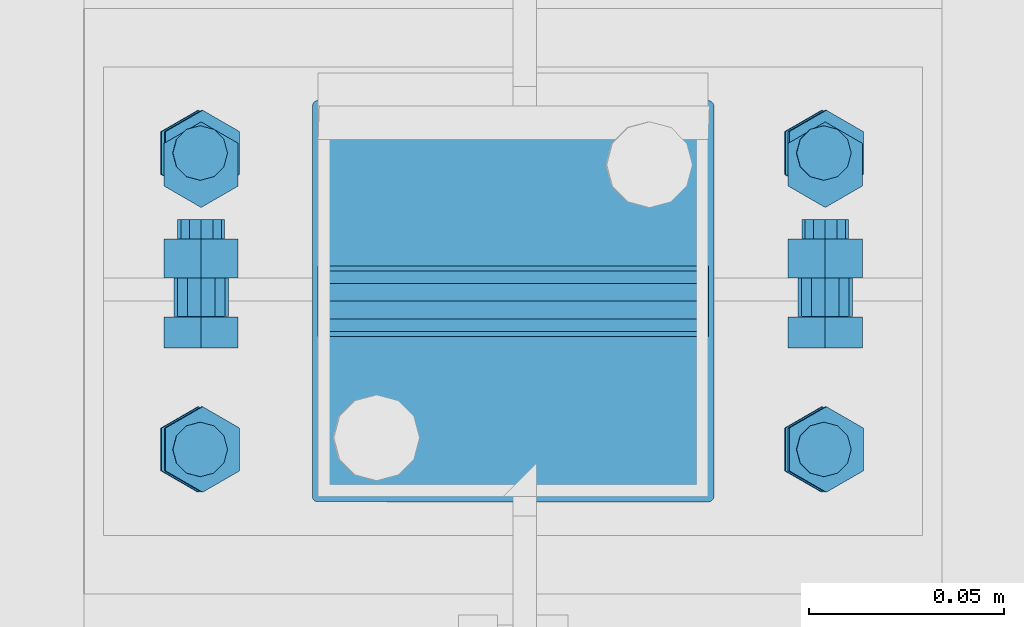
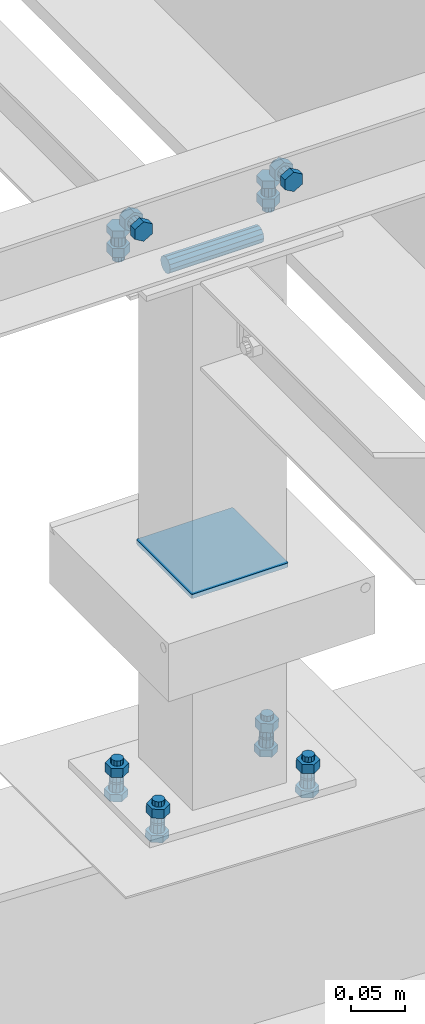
# One storey, part 80 of 3134: 6 mechanical fasteners, 3 elements without a shape of their own.
"""IFC2X3 building model written with IfcOpenShell, lengths in millimetres."""

from ifc_helpers import new_model, si_unit, frame, origin_with_axes, place, context, subcontext, project, spatial, faceted_brep, source, transform, mapped, material, type_object, element, aggregate, save


model = new_model("IFC2X3")

# Units and contexts
model_context = context("Model", 3, precision=1e-05, world=origin_with_axes())
body_context = subcontext(model_context, "Body", "Model", "MODEL_VIEW")
ifc_project = project(units=[si_unit("LENGTHUNIT", "METRE", prefix="MILLI"), si_unit("AREAUNIT", "SQUARE_METRE"), si_unit("VOLUMEUNIT", "CUBIC_METRE"), si_unit("MASSUNIT", "GRAM", prefix="KILO"), si_unit("TIMEUNIT", "SECOND"), si_unit("PLANEANGLEUNIT", "RADIAN"), si_unit("SOLIDANGLEUNIT", "STERADIAN"), si_unit("THERMODYNAMICTEMPERATUREUNIT", "DEGREE_CELSIUS"), si_unit("LUMINOUSINTENSITYUNIT", "LUMEN")], contexts=[model_context])

# Site, building, storey
site_placement = place(None, origin_with_axes())
site = spatial("IfcSite", under=ifc_project, at=site_placement, CompositionType="ELEMENT")
building_placement = place(site_placement, origin_with_axes())
building = spatial("IfcBuilding", under=site, at=building_placement, Name="Undefined", CompositionType="ELEMENT")
storey_placement = place(building_placement, origin_with_axes())
storey = spatial("IfcBuildingStorey", under=building, at=storey_placement, Name="Undefined", CompositionType="ELEMENT", Elevation=0.0)

# Assembly, mechanical fastener
assembly_1_placement = place(storey_placement, origin_with_axes())
assembly_1 = element("IfcElementAssembly", 1, at=assembly_1_placement, inside=storey, AssemblyPlace="NOTDEFINED", PredefinedType="RIGID_FRAME")
ifc_material_1 = material(Name="8.8")
mechanical_fastener_type = type_object("IfcMechanicalFastenerType", Name="Bolt assembly")
shared_shape_1 = source(origin_with_axes(), body_context, "Body", "Brep", [
    faceted_brep([(10.9696551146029, -14.0, 0.0), (5.48482755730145, -14.0, 9.5), (-5.48482755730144, -14.0, 9.5), (-10.9696551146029, -14.0, 1.34339530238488e-15), (-5.48482755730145, -14.0, -9.5), (5.48482755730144, -14.0, -9.50000000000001), (5.48482755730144, -6.0, -9.50000000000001), (-5.48482755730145, -6.0, -9.5), (-10.9696551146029, -6.0, 1.34339530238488e-15), (-5.48482755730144, -6.0, 9.5), (5.48482755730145, -6.0, 9.5), (10.9696551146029, -6.0, 0.0), (6.0, -6.0, 0.0), (5.19615242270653, -6.0, 3.00000000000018), (2.99999999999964, -6.0, 5.19615242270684), (-6.21801588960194e-13, -6.0, 6.0), (-3.00000000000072, -6.0, 5.19615242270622), (-5.19615242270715, -6.0, 2.9999999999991), (-6.0, -6.0, -1.24360317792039e-12), (-5.19615242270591, -6.0, -3.00000000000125), (-2.99999999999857, -6.0, -5.19615242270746), (1.85874342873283e-12, -6.0, -6.0), (3.00000000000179, -6.0, -5.1961524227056), (5.19615242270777, -6.0, -2.99999999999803), (5.19615242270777, 24.0, -2.99999999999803), (3.00000000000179, 24.0, -5.1961524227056), (1.85874342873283e-12, 24.0, -6.0), (-2.99999999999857, 24.0, -5.19615242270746), (-5.19615242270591, 24.0, -3.00000000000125), (-6.0, 24.0, -1.24360317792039e-12), (-5.19615242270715, 24.0, 2.9999999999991), (-3.00000000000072, 24.0, 5.19615242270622), (-6.21801588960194e-13, 24.0, 6.0), (2.99999999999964, 24.0, 5.19615242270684), (5.19615242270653, 24.0, 3.00000000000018), (6.0, 24.0, 0.0), (10.9696551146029, 6.00000000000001, 0.0), (5.48482755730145, 6.00000000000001, 9.5), (-5.48482755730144, 6.00000000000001, 9.5), (-10.9696551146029, 6.00000000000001, 1.34339530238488e-15), (-5.48482755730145, 6.00000000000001, -9.5), (5.48482755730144, 6.00000000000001, -9.50000000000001), (5.48482755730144, 16.0, -9.50000000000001), (-5.48482755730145, 16.0, -9.5), (-10.9696551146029, 16.0, 1.34339530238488e-15), (-5.48482755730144, 16.0, 9.5), (5.48482755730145, 16.0, 9.5), (10.9696551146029, 16.0, 0.0)], [[[0, 1, 2, 3, 4, 5]], [[6, 7, 8, 9, 10, 11]], [[0, 11, 10, 1]], [[1, 10, 9, 2]], [[2, 9, 8, 3]], [[3, 8, 7, 4]], [[4, 7, 6, 5]], [[5, 6, 11, 0]], [[12, 13, 14, 15, 16, 17, 18, 19, 20, 21, 22, 23]], [[24, 25, 26, 27, 28, 29, 30, 31, 32, 33, 34, 35]], [[12, 35, 34, 13]], [[13, 34, 33, 14]], [[14, 33, 32, 15]], [[15, 32, 31, 16]], [[16, 31, 30, 17]], [[17, 30, 29, 18]], [[18, 29, 28, 19]], [[19, 28, 27, 20]], [[20, 27, 26, 21]], [[21, 26, 25, 22]], [[22, 25, 24, 23]], [[23, 24, 35, 12]], [[36, 37, 38, 39, 40, 41]], [[42, 43, 44, 45, 46, 47]], [[36, 47, 46, 37]], [[37, 46, 45, 38]], [[38, 45, 44, 39]], [[39, 44, 43, 40]], [[40, 43, 42, 41]], [[41, 42, 47, 36]]]),
    faceted_brep([(7.0, -0.1, 0.0), (6.06217782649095, -0.1, 3.50000000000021), (3.49999999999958, -0.1, 6.06217782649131), (-7.25435187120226e-13, -0.1, 7.0), (-3.50000000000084, -0.1, 6.06217782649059), (-6.06217782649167, -0.1, 3.49999999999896), (-7.0, -0.1, -1.45087037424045e-12), (-6.06217782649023, -0.1, -3.50000000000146), (-3.49999999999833, -0.1, -6.06217782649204), (2.1685340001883e-12, -0.1, -7.0), (3.50000000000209, -0.1, -6.06217782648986), (6.0621778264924, -0.1, -3.4999999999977), (6.0621778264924, 6.00000000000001, -3.4999999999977), (3.50000000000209, 6.00000000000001, -6.06217782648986), (2.1685340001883e-12, 6.00000000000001, -7.0), (-3.49999999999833, 6.00000000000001, -6.06217782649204), (-6.06217782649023, 6.00000000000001, -3.50000000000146), (-7.0, 6.00000000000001, -1.45087037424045e-12), (-6.06217782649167, 6.00000000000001, 3.49999999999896), (-3.50000000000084, 6.00000000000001, 6.06217782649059), (-7.25435187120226e-13, 6.00000000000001, 7.0), (3.49999999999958, 6.00000000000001, 6.06217782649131), (6.06217782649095, 6.00000000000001, 3.50000000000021), (7.0, 6.00000000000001, 0.0), (7.0, -5.9, 0.0), (6.06217782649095, -5.9, 3.50000000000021), (3.49999999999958, -5.9, 6.06217782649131), (-7.25435187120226e-13, -5.9, 7.0), (-3.50000000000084, -5.9, 6.06217782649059), (-6.06217782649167, -5.9, 3.49999999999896), (-7.0, -5.9, -1.45087037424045e-12), (-6.06217782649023, -5.9, -3.50000000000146), (-3.49999999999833, -5.9, -6.06217782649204), (2.1685340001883e-12, -5.9, -7.0), (3.50000000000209, -5.9, -6.06217782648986), (6.0621778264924, -5.9, -3.4999999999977), (6.0621778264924, 0.0999999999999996, -3.4999999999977), (3.50000000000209, 0.0999999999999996, -6.06217782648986), (2.1685340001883e-12, 0.0999999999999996, -7.0), (-3.49999999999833, 0.0999999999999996, -6.06217782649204), (-6.06217782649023, 0.0999999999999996, -3.50000000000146), (-7.0, 0.0999999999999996, -1.45087037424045e-12), (-6.06217782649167, 0.0999999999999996, 3.49999999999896), (-3.50000000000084, 0.0999999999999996, 6.06217782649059), (-7.25435187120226e-13, 0.0999999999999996, 7.0), (3.49999999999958, 0.0999999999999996, 6.06217782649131), (6.06217782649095, 0.0999999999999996, 3.50000000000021), (7.0, 0.0999999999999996, 0.0)], [[[0, 1, 2, 3, 4, 5, 6, 7, 8, 9, 10, 11]], [[12, 13, 14, 15, 16, 17, 18, 19, 20, 21, 22, 23]], [[0, 23, 22, 1]], [[1, 22, 21, 2]], [[2, 21, 20, 3]], [[3, 20, 19, 4]], [[4, 19, 18, 5]], [[5, 18, 17, 6]], [[6, 17, 16, 7]], [[7, 16, 15, 8]], [[8, 15, 14, 9]], [[9, 14, 13, 10]], [[10, 13, 12, 11]], [[11, 12, 23, 0]], [[24, 25, 26, 27, 28, 29, 30, 31, 32, 33, 34, 35]], [[36, 37, 38, 39, 40, 41, 42, 43, 44, 45, 46, 47]], [[24, 47, 46, 25]], [[25, 46, 45, 26]], [[26, 45, 44, 27]], [[27, 44, 43, 28]], [[28, 43, 42, 29]], [[29, 42, 41, 30]], [[30, 41, 40, 31]], [[31, 40, 39, 32]], [[32, 39, 38, 33]], [[33, 38, 37, 34]], [[34, 37, 36, 35]], [[35, 36, 47, 24]]]),
])
mechanical_fastener_1_placement = place(assembly_1_placement, frame((8340.0, 24547.5, 4365.0), z_axis=(1.0, 0.0, 0.0), x_axis=(0.0, -1.0, 0.0)))
mechanical_fastener_1 = element("IfcMechanicalFastener", 2, at=mechanical_fastener_1_placement, type_object=mechanical_fastener_type, material=ifc_material_1, Name="Bolt assembly", NominalDiameter=12.0, NominalLength=30.0, context=body_context, shape_type="MappedRepresentation", body=[
    mapped(shared_shape_1, transform((0.0, -5.32963895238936e-10, -79.9999999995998))),
    mapped(shared_shape_1, transform((0.0, 5.3114490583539e-10, 79.9999999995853))),
])

assembly_2_placement = place(storey_placement, origin_with_axes())
assembly_2 = element("IfcElementAssembly", 3, at=assembly_2_placement, inside=storey, AssemblyPlace="NOTDEFINED", PredefinedType="RIGID_FRAME")
shared_shape_2 = source(origin_with_axes(), body_context, "Body", "Brep", [
    faceted_brep([(10.9696551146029, -4.18346828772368, 0.0), (5.48482755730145, -4.18346828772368, 9.5), (-5.48482755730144, -4.18346828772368, 9.5), (-10.9696551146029, -4.18346828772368, 1.34339530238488e-15), (-5.48482755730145, -4.18346828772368, -9.5), (5.48482755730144, -4.18346828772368, -9.50000000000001), (5.48482755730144, 3.81653171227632, -9.50000000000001), (-5.48482755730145, 3.81653171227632, -9.5), (-10.9696551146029, 3.81653171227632, 1.34339530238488e-15), (-5.48482755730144, 3.81653171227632, 9.5), (5.48482755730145, 3.81653171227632, 9.5), (10.9696551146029, 3.81653171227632, 0.0), (6.0, 3.81653171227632, 0.0), (5.19615242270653, 3.81653171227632, 3.00000000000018), (2.99999999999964, 3.81653171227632, 5.19615242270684), (-6.21801588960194e-13, 3.81653171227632, 6.0), (-3.00000000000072, 3.81653171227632, 5.19615242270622), (-5.19615242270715, 3.81653171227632, 2.9999999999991), (-6.0, 3.81653171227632, -1.24360317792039e-12), (-5.19615242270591, 3.81653171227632, -3.00000000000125), (-2.99999999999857, 3.81653171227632, -5.19615242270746), (1.85874342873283e-12, 3.81653171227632, -6.0), (3.00000000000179, 3.81653171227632, -5.1961524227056), (5.19615242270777, 3.81653171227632, -2.99999999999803), (5.19615242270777, 38.8165317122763, -2.99999999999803), (3.00000000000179, 38.8165317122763, -5.1961524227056), (1.85874342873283e-12, 38.8165317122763, -6.0), (-2.99999999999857, 38.8165317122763, -5.19615242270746), (-5.19615242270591, 38.8165317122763, -3.00000000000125), (-6.0, 38.8165317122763, -1.24360317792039e-12), (-5.19615242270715, 38.8165317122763, 2.9999999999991), (-3.00000000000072, 38.8165317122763, 5.19615242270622), (-6.21801588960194e-13, 38.8165317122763, 6.0), (2.99999999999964, 38.8165317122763, 5.19615242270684), (5.19615242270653, 38.8165317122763, 3.00000000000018), (6.0, 38.8165317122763, 0.0), (10.9696551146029, 23.0139082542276, 0.0), (5.48482755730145, 23.0139082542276, 9.5), (-5.48482755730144, 23.0139082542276, 9.5), (-10.9696551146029, 23.0139082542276, 1.34339530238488e-15), (-5.48482755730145, 23.0139082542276, -9.5), (5.48482755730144, 23.0139082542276, -9.50000000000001), (5.48482755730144, 33.0139082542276, -9.50000000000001), (-5.48482755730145, 33.0139082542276, -9.5), (-10.9696551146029, 33.0139082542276, 1.34339530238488e-15), (-5.48482755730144, 33.0139082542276, 9.5), (5.48482755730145, 33.0139082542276, 9.5), (10.9696551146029, 33.0139082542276, 0.0)], [[[0, 1, 2, 3, 4, 5]], [[6, 7, 8, 9, 10, 11]], [[0, 11, 10, 1]], [[1, 10, 9, 2]], [[2, 9, 8, 3]], [[3, 8, 7, 4]], [[4, 7, 6, 5]], [[5, 6, 11, 0]], [[12, 13, 14, 15, 16, 17, 18, 19, 20, 21, 22, 23]], [[24, 25, 26, 27, 28, 29, 30, 31, 32, 33, 34, 35]], [[12, 35, 34, 13]], [[13, 34, 33, 14]], [[14, 33, 32, 15]], [[15, 32, 31, 16]], [[16, 31, 30, 17]], [[17, 30, 29, 18]], [[18, 29, 28, 19]], [[19, 28, 27, 20]], [[20, 27, 26, 21]], [[21, 26, 25, 22]], [[22, 25, 24, 23]], [[23, 24, 35, 12]], [[36, 37, 38, 39, 40, 41]], [[42, 43, 44, 45, 46, 47]], [[36, 47, 46, 37]], [[37, 46, 45, 38]], [[38, 45, 44, 39]], [[39, 44, 43, 40]], [[40, 43, 42, 41]], [[41, 42, 47, 36]]]),
    faceted_brep([(7.0, 3.91653171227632, 0.0), (6.06217782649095, 3.91653171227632, 3.50000000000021), (3.49999999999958, 3.91653171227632, 6.06217782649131), (-7.25435187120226e-13, 3.91653171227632, 7.0), (-3.50000000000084, 3.91653171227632, 6.06217782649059), (-6.06217782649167, 3.91653171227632, 3.49999999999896), (-7.0, 3.91653171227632, -1.45087037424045e-12), (-6.06217782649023, 3.91653171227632, -3.50000000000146), (-3.49999999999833, 3.91653171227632, -6.06217782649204), (2.1685340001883e-12, 3.91653171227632, -7.0), (3.50000000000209, 3.91653171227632, -6.06217782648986), (6.0621778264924, 3.91653171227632, -3.4999999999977), (6.0621778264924, 13.1165315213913, -3.4999999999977), (3.50000000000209, 13.1165315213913, -6.06217782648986), (2.1685340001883e-12, 13.1165315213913, -7.0), (-3.49999999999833, 13.1165315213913, -6.06217782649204), (-6.06217782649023, 13.1165315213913, -3.50000000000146), (-7.0, 13.1165315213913, -1.45087037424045e-12), (-6.06217782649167, 13.1165315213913, 3.49999999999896), (-3.50000000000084, 13.1165315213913, 6.06217782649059), (-7.25435187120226e-13, 13.1165315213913, 7.0), (3.49999999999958, 13.1165315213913, 6.06217782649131), (6.06217782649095, 13.1165315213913, 3.50000000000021), (7.0, 13.1165315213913, 0.0), (7.0, 14.9139082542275, 0.0), (6.06217782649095, 14.9139082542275, 3.50000000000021), (3.49999999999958, 14.9139082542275, 6.06217782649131), (-7.25435187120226e-13, 14.9139082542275, 7.0), (-3.50000000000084, 14.9139082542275, 6.06217782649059), (-6.06217782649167, 14.9139082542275, 3.49999999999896), (-7.0, 14.9139082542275, -1.45087037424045e-12), (-6.06217782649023, 14.9139082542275, -3.50000000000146), (-3.49999999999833, 14.9139082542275, -6.06217782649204), (2.1685340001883e-12, 14.9139082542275, -7.0), (3.50000000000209, 14.9139082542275, -6.06217782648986), (6.0621778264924, 14.9139082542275, -3.4999999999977), (6.0621778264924, 23.0139082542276, -3.4999999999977), (3.50000000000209, 23.0139082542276, -6.06217782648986), (2.1685340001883e-12, 23.0139082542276, -7.0), (-3.49999999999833, 23.0139082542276, -6.06217782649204), (-6.06217782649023, 23.0139082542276, -3.50000000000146), (-7.0, 23.0139082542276, -1.45087037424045e-12), (-6.06217782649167, 23.0139082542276, 3.49999999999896), (-3.50000000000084, 23.0139082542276, 6.06217782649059), (-7.25435187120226e-13, 23.0139082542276, 7.0), (3.49999999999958, 23.0139082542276, 6.06217782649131), (6.06217782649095, 23.0139082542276, 3.50000000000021), (7.0, 23.0139082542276, 0.0)], [[[0, 1, 2, 3, 4, 5, 6, 7, 8, 9, 10, 11]], [[12, 13, 14, 15, 16, 17, 18, 19, 20, 21, 22, 23]], [[0, 23, 22, 1]], [[1, 22, 21, 2]], [[2, 21, 20, 3]], [[3, 20, 19, 4]], [[4, 19, 18, 5]], [[5, 18, 17, 6]], [[6, 17, 16, 7]], [[7, 16, 15, 8]], [[8, 15, 14, 9]], [[9, 14, 13, 10]], [[10, 13, 12, 11]], [[11, 12, 23, 0]], [[24, 25, 26, 27, 28, 29, 30, 31, 32, 33, 34, 35]], [[36, 37, 38, 39, 40, 41, 42, 43, 44, 45, 46, 47]], [[24, 47, 46, 25]], [[25, 46, 45, 26]], [[26, 45, 44, 27]], [[27, 44, 43, 28]], [[28, 43, 42, 29]], [[29, 42, 41, 30]], [[30, 41, 40, 31]], [[31, 40, 39, 32]], [[32, 39, 38, 33]], [[33, 38, 37, 34]], [[34, 37, 36, 35]], [[35, 36, 47, 24]]]),
])
mechanical_fastener_2_placement = place(assembly_2_placement, frame((8339.1931765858, 24550.4999999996, 3735.10000668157), z_axis=(-0.999387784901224, 0.0, 0.0349865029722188), x_axis=(0.0, -1.0, 0.0)))
mechanical_fastener_2 = element("IfcMechanicalFastener", 4, at=mechanical_fastener_2_placement, type_object=mechanical_fastener_type, material=ifc_material_1, Name="Bolt assembly", NominalDiameter=12.0, NominalLength=35.0, context=body_context, shape_type="MappedRepresentation", body=[
    mapped(shared_shape_2, transform((0.0, -5.32963895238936e-10, -79.9999999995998))),
    mapped(shared_shape_2, transform((76.0, -5.32963895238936e-10, -79.9999999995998))),
    mapped(shared_shape_2, transform((0.0, 5.3114490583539e-10, 79.9999999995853))),
    mapped(shared_shape_2, transform((76.0, 5.3114490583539e-10, 79.9999999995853))),
])

assembly_3_placement = place(storey_placement, origin_with_axes())
assembly_3 = element("IfcElementAssembly", 5, at=assembly_3_placement, inside=storey, AssemblyPlace="NOTDEFINED", PredefinedType="RIGID_FRAME")
shared_shape_3 = source(origin_with_axes(), body_context, "Body", "Brep", [
    faceted_brep([(7.0, 13.0000253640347, 0.0), (6.06217782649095, 13.0000253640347, 3.50000000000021), (3.49999999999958, 13.0000253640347, 6.06217782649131), (-7.25435187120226e-13, 13.0000253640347, 7.0), (-3.50000000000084, 13.0000253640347, 6.06217782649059), (-6.06217782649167, 13.0000253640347, 3.49999999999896), (-7.0, 13.0000253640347, -1.45087037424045e-12), (-6.06217782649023, 13.0000253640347, -3.50000000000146), (-3.49999999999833, 13.0000253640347, -6.06217782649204), (2.1685340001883e-12, 13.0000253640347, -7.0), (3.50000000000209, 13.0000253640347, -6.06217782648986), (6.0621778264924, 13.0000253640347, -3.4999999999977), (6.0621778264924, 15.0999999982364, -3.4999999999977), (3.50000000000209, 15.0999999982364, -6.06217782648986), (2.1685340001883e-12, 15.0999999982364, -7.0), (-3.49999999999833, 15.0999999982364, -6.06217782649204), (-6.06217782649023, 15.0999999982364, -3.50000000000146), (-7.0, 15.0999999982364, -1.45087037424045e-12), (-6.06217782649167, 15.0999999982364, 3.49999999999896), (-3.50000000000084, 15.0999999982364, 6.06217782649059), (-7.25435187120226e-13, 15.0999999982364, 7.0), (3.49999999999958, 15.0999999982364, 6.06217782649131), (6.06217782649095, 15.0999999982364, 3.50000000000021), (7.0, 15.0999999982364, 0.0)], [[[0, 1, 2, 3, 4, 5, 6, 7, 8, 9, 10, 11]], [[12, 13, 14, 15, 16, 17, 18, 19, 20, 21, 22, 23]], [[0, 23, 22, 1]], [[1, 22, 21, 2]], [[2, 21, 20, 3]], [[3, 20, 19, 4]], [[4, 19, 18, 5]], [[5, 18, 17, 6]], [[6, 17, 16, 7]], [[7, 16, 15, 8]], [[8, 15, 14, 9]], [[9, 14, 13, 10]], [[10, 13, 12, 11]], [[11, 12, 23, 0]]]),
])
mechanical_fastener_3_placement = place(assembly_3_placement, frame((8339.1931765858, 24550.4999999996, 3735.10000668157), z_axis=(-0.999387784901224, 0.0, 0.0349865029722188), x_axis=(0.0, -1.0, 0.0)))
mechanical_fastener_3 = element("IfcMechanicalFastener", 6, at=mechanical_fastener_3_placement, type_object=mechanical_fastener_type, material=ifc_material_1, Name="Bolt assembly", NominalDiameter=12.0, NominalLength=2.0, context=body_context, shape_type="MappedRepresentation", body=[
    mapped(shared_shape_3, transform((0.0, -5.32963895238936e-10, -79.9999999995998))),
    mapped(shared_shape_3, transform((76.0, -5.32963895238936e-10, -79.9999999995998))),
    mapped(shared_shape_3, transform((0.0, 5.3114490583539e-10, 79.9999999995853))),
    mapped(shared_shape_3, transform((76.0, 5.3114490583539e-10, 79.9999999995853))),
])
aggregate(assembly_3, [mechanical_fastener_3])

# Mechanical fastener
shared_shape_4 = source(origin_with_axes(), body_context, "Body", "Brep", [
    faceted_brep([(9.0, -50.0, 0.0), (7.79422863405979, -50.0, 4.50000000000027), (4.49999999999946, -50.0, 7.79422863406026), (-9.3270238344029e-13, -50.0, 9.0), (-4.50000000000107, -50.0, 7.79422863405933), (-7.79422863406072, -50.0, 4.49999999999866), (-9.0, -50.0, -1.86540476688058e-12), (-7.79422863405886, -50.0, -4.50000000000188), (-4.49999999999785, -50.0, -7.79422863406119), (2.78811514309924e-12, -50.0, -9.0), (4.50000000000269, -50.0, -7.7942286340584), (7.79422863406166, -50.0, -4.49999999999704), (7.79422863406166, 50.1, -4.49999999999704), (4.50000000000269, 50.1, -7.7942286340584), (2.78811514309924e-12, 50.1, -9.0), (-4.49999999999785, 50.1, -7.79422863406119), (-7.79422863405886, 50.1, -4.50000000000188), (-9.0, 50.1, -1.86540476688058e-12), (-7.79422863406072, 50.1, 4.49999999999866), (-4.50000000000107, 50.1, 7.79422863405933), (-9.3270238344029e-13, 50.1, 9.0), (4.49999999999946, 50.1, 7.79422863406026), (7.79422863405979, 50.1, 4.50000000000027), (9.0, 50.1, 0.0)], [[[0, 1, 2, 3, 4, 5, 6, 7, 8, 9, 10, 11]], [[12, 13, 14, 15, 16, 17, 18, 19, 20, 21, 22, 23]], [[0, 23, 22, 1]], [[1, 22, 21, 2]], [[2, 21, 20, 3]], [[3, 20, 19, 4]], [[4, 19, 18, 5]], [[5, 18, 17, 6]], [[6, 17, 16, 7]], [[7, 16, 15, 8]], [[8, 15, 14, 9]], [[9, 14, 13, 10]], [[10, 13, 12, 11]], [[11, 12, 23, 0]]]),
])
mechanical_fastener_4_placement = place(assembly_2_placement, frame((8340.0, 24512.5, 4345.0), z_axis=(0.0, 1.0, 0.0), x_axis=(0.0, 0.0, 1.0)))
mechanical_fastener_4 = element("IfcMechanicalFastener", 7, at=mechanical_fastener_4_placement, type_object=mechanical_fastener_type, material=ifc_material_1, Name="Bolt assembly", NominalDiameter=16.0, NominalLength=100.0, context=body_context, shape_type="MappedRepresentation", body=[
    mapped(shared_shape_4, transform((0.0, 0.0, 0.0))),
])

ifc_material_2 = material(Name="6.8")
shared_shape_5 = source(origin_with_axes(), body_context, "Body", "Brep", [
    faceted_brep([(51.5, 1.36424205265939e-12, 50.0), (51.3858192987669, 1.36424205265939e-12, 50.5740251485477), (51.0606601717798, 1.36424205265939e-12, 51.0606601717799), (50.5740251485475, 1.36424205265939e-12, 51.385819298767), (-50.0000000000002, 1.36424205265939e-12, 51.5), (-50.7500000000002, 1.36424205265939e-12, 51.2990381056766), (-51.2990381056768, 1.36424205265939e-12, 50.7499999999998), (-51.5, 1.36424205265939e-12, 49.9999999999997), (-51.5, 1.36424205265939e-12, -50.0000000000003), (-51.2990381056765, 1.36424205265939e-12, -50.7500000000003), (-50.7499999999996, 1.36424205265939e-12, -51.2990381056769), (-49.9999999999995, 1.36424205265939e-12, -51.5), (50.0000000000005, 1.36424205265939e-12, -51.5), (50.7500000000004, 1.36424205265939e-12, -51.2990381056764), (51.2990381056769, 1.36424205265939e-12, -50.7499999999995), (51.5, 1.36424205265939e-12, -49.9999999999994), (51.5, 5.10000000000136, -49.9999999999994), (51.2990381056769, 5.10000000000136, -50.7499999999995), (50.7500000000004, 5.10000000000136, -51.2990381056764), (50.0000000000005, 5.10000000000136, -51.5), (-49.9999999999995, 5.10000000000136, -51.5), (-50.7499999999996, 5.10000000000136, -51.2990381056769), (-51.2990381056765, 5.10000000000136, -50.7500000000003), (-51.5, 5.10000000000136, -50.0000000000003), (-51.5, 5.10000000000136, 49.9999999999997), (-51.2990381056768, 5.10000000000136, 50.7499999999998), (-50.7500000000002, 5.10000000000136, 51.2990381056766), (-50.0000000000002, 5.10000000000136, 51.5), (50.5740251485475, 5.10000000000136, 51.385819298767), (51.0606601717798, 5.10000000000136, 51.0606601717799), (51.3858192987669, 5.10000000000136, 50.5740251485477), (51.5, 5.10000000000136, 50.0)], [[[0, 1, 2, 3, 4, 5, 6, 7, 8, 9, 10, 11, 12, 13, 14, 15]], [[16, 17, 18, 19, 20, 21, 22, 23, 24, 25, 26, 27, 28, 29, 30, 31]], [[0, 31, 30, 1]], [[1, 30, 29, 2]], [[2, 29, 28, 3]], [[3, 28, 27, 4]], [[4, 27, 26, 5]], [[5, 26, 25, 6]], [[6, 25, 24, 7]], [[7, 24, 23, 8]], [[8, 23, 22, 9]], [[9, 22, 21, 10]], [[10, 21, 20, 11]], [[11, 20, 19, 12]], [[12, 19, 18, 13]], [[13, 18, 17, 14]], [[14, 17, 16, 15]], [[15, 16, 31, 0]]]),
])
mechanical_fastener_5_placement = place(assembly_2_placement, frame((8340.0, 24512.5, 4004.89), z_axis=(0.0, -1.0, 0.0), x_axis=(-1.0, 0.0, 0.0)))
mechanical_fastener_5 = element("IfcMechanicalFastener", 8, at=mechanical_fastener_5_placement, type_object=mechanical_fastener_type, material=ifc_material_2, Name="Bolt assembly", NominalDiameter=10.0, NominalLength=5.0, context=body_context, shape_type="MappedRepresentation", body=[
    mapped(shared_shape_5, transform((0.0, 0.0, 0.0))),
])

aggregate(assembly_2, [mechanical_fastener_2, mechanical_fastener_5, mechanical_fastener_4])

shared_shape_6 = source(origin_with_axes(), body_context, "Body", "Brep", [
    faceted_brep([(10.9696551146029, -12.0, 0.0), (5.48482755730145, -12.0, 9.5), (-5.48482755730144, -12.0, 9.5), (-10.9696551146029, -12.0, 1.34339530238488e-15), (-5.48482755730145, -12.0, -9.5), (5.48482755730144, -12.0, -9.50000000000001), (5.48482755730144, -4.0, -9.50000000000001), (-5.48482755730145, -4.0, -9.5), (-10.9696551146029, -4.0, 1.34339530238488e-15), (-5.48482755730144, -4.0, 9.5), (5.48482755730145, -4.0, 9.5), (10.9696551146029, -4.0, 0.0), (6.0, -4.0, 0.0), (5.19615242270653, -4.0, 3.00000000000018), (2.99999999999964, -4.0, 5.19615242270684), (-6.21801588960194e-13, -4.0, 6.0), (-3.00000000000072, -4.0, 5.19615242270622), (-5.19615242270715, -4.0, 2.9999999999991), (-6.0, -4.0, -1.24360317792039e-12), (-5.19615242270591, -4.0, -3.00000000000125), (-2.99999999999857, -4.0, -5.19615242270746), (1.85874342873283e-12, -4.0, -6.0), (3.00000000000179, -4.0, -5.1961524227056), (5.19615242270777, -4.0, -2.99999999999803), (5.19615242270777, 21.0, -2.99999999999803), (3.00000000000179, 21.0, -5.1961524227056), (1.85874342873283e-12, 21.0, -6.0), (-2.99999999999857, 21.0, -5.19615242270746), (-5.19615242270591, 21.0, -3.00000000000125), (-6.0, 21.0, -1.24360317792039e-12), (-5.19615242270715, 21.0, 2.9999999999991), (-3.00000000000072, 21.0, 5.19615242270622), (-6.21801588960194e-13, 21.0, 6.0), (2.99999999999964, 21.0, 5.19615242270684), (5.19615242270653, 21.0, 3.00000000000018), (6.0, 21.0, 0.0), (10.9696551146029, 6.00000000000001, 0.0), (5.48482755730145, 6.00000000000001, 9.5), (-5.48482755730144, 6.00000000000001, 9.5), (-10.9696551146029, 6.00000000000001, 1.34339530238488e-15), (-5.48482755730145, 6.00000000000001, -9.5), (5.48482755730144, 6.00000000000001, -9.50000000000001), (5.48482755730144, 16.0, -9.50000000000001), (-5.48482755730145, 16.0, -9.5), (-10.9696551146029, 16.0, 1.34339530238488e-15), (-5.48482755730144, 16.0, 9.5), (5.48482755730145, 16.0, 9.5), (10.9696551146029, 16.0, 0.0)], [[[0, 1, 2, 3, 4, 5]], [[6, 7, 8, 9, 10, 11]], [[0, 11, 10, 1]], [[1, 10, 9, 2]], [[2, 9, 8, 3]], [[3, 8, 7, 4]], [[4, 7, 6, 5]], [[5, 6, 11, 0]], [[12, 13, 14, 15, 16, 17, 18, 19, 20, 21, 22, 23]], [[24, 25, 26, 27, 28, 29, 30, 31, 32, 33, 34, 35]], [[12, 35, 34, 13]], [[13, 34, 33, 14]], [[14, 33, 32, 15]], [[15, 32, 31, 16]], [[16, 31, 30, 17]], [[17, 30, 29, 18]], [[18, 29, 28, 19]], [[19, 28, 27, 20]], [[20, 27, 26, 21]], [[21, 26, 25, 22]], [[22, 25, 24, 23]], [[23, 24, 35, 12]], [[36, 37, 38, 39, 40, 41]], [[42, 43, 44, 45, 46, 47]], [[36, 47, 46, 37]], [[37, 46, 45, 38]], [[38, 45, 44, 39]], [[39, 44, 43, 40]], [[40, 43, 42, 41]], [[41, 42, 47, 36]]]),
    faceted_brep([(7.0, -3.9, 0.0), (6.06217782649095, -3.9, 3.50000000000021), (3.49999999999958, -3.9, 6.06217782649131), (-7.25435187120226e-13, -3.9, 7.0), (-3.50000000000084, -3.9, 6.06217782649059), (-6.06217782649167, -3.9, 3.49999999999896), (-7.0, -3.9, -1.45087037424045e-12), (-6.06217782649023, -3.9, -3.50000000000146), (-3.49999999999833, -3.9, -6.06217782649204), (2.1685340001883e-12, -3.9, -7.0), (3.50000000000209, -3.9, -6.06217782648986), (6.0621778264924, -3.9, -3.4999999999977), (6.0621778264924, 0.0999999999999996, -3.4999999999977), (3.50000000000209, 0.0999999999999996, -6.06217782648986), (2.1685340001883e-12, 0.0999999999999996, -7.0), (-3.49999999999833, 0.0999999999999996, -6.06217782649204), (-6.06217782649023, 0.0999999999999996, -3.50000000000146), (-7.0, 0.0999999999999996, -1.45087037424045e-12), (-6.06217782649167, 0.0999999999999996, 3.49999999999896), (-3.50000000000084, 0.0999999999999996, 6.06217782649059), (-7.25435187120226e-13, 0.0999999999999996, 7.0), (3.49999999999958, 0.0999999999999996, 6.06217782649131), (6.06217782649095, 0.0999999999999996, 3.50000000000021), (7.0, 0.0999999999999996, 0.0), (7.0, -0.1, 0.0), (6.06217782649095, -0.1, 3.50000000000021), (3.49999999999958, -0.1, 6.06217782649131), (-7.25435187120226e-13, -0.1, 7.0), (-3.50000000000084, -0.1, 6.06217782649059), (-6.06217782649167, -0.1, 3.49999999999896), (-7.0, -0.1, -1.45087037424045e-12), (-6.06217782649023, -0.1, -3.50000000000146), (-3.49999999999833, -0.1, -6.06217782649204), (2.1685340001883e-12, -0.1, -7.0), (3.50000000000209, -0.1, -6.06217782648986), (6.0621778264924, -0.1, -3.4999999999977), (6.0621778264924, 6.00000000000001, -3.4999999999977), (3.50000000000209, 6.00000000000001, -6.06217782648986), (2.1685340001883e-12, 6.00000000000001, -7.0), (-3.49999999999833, 6.00000000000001, -6.06217782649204), (-6.06217782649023, 6.00000000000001, -3.50000000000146), (-7.0, 6.00000000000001, -1.45087037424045e-12), (-6.06217782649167, 6.00000000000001, 3.49999999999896), (-3.50000000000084, 6.00000000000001, 6.06217782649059), (-7.25435187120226e-13, 6.00000000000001, 7.0), (3.49999999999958, 6.00000000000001, 6.06217782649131), (6.06217782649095, 6.00000000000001, 3.50000000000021), (7.0, 6.00000000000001, 0.0)], [[[0, 1, 2, 3, 4, 5, 6, 7, 8, 9, 10, 11]], [[12, 13, 14, 15, 16, 17, 18, 19, 20, 21, 22, 23]], [[0, 23, 22, 1]], [[1, 22, 21, 2]], [[2, 21, 20, 3]], [[3, 20, 19, 4]], [[4, 19, 18, 5]], [[5, 18, 17, 6]], [[6, 17, 16, 7]], [[7, 16, 15, 8]], [[8, 15, 14, 9]], [[9, 14, 13, 10]], [[10, 13, 12, 11]], [[11, 12, 23, 0]], [[24, 25, 26, 27, 28, 29, 30, 31, 32, 33, 34, 35]], [[36, 37, 38, 39, 40, 41, 42, 43, 44, 45, 46, 47]], [[24, 47, 46, 25]], [[25, 46, 45, 26]], [[26, 45, 44, 27]], [[27, 44, 43, 28]], [[28, 43, 42, 29]], [[29, 42, 41, 30]], [[30, 41, 40, 31]], [[31, 40, 39, 32]], [[32, 39, 38, 33]], [[33, 38, 37, 34]], [[34, 37, 36, 35]], [[35, 36, 47, 24]]]),
])
mechanical_fastener_6_placement = place(assembly_1_placement, frame((8340.0, 24512.5, 4400.0), z_axis=(1.0, 0.0, 0.0), x_axis=(0.0, 0.0, -1.0)))
mechanical_fastener_6 = element("IfcMechanicalFastener", 9, at=mechanical_fastener_6_placement, type_object=mechanical_fastener_type, material=ifc_material_1, Name="Bolt assembly", NominalDiameter=12.0, NominalLength=25.0, context=body_context, shape_type="MappedRepresentation", body=[
    mapped(shared_shape_6, transform((0.0, -5.32963895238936e-10, -79.9999999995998))),
    mapped(shared_shape_6, transform((0.0, 5.3114490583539e-10, 79.9999999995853))),
])

aggregate(assembly_1, [mechanical_fastener_1, mechanical_fastener_6])

save(model, "model.ifc")
